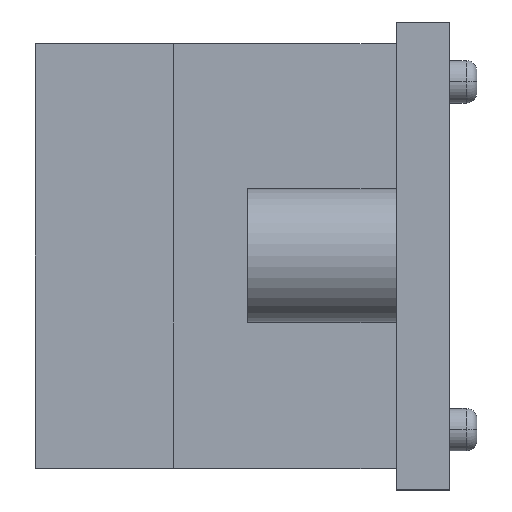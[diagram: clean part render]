
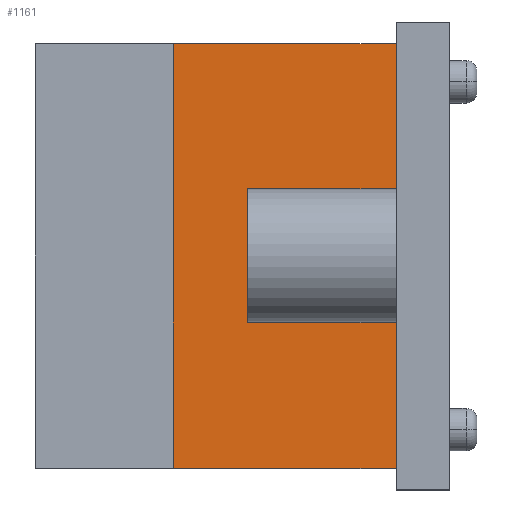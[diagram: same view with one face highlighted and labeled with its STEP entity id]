
A CAD part, top view. The second image highlights one B-rep face of the part: STEP entity #1161.
In plain terms, the highlighted planar face has unit normal (0, 0, 1).
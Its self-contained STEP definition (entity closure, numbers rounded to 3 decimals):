
#195 = LINE ( 'NONE', #742, #3392 ) ;
#292 = PLANE ( 'NONE',  #2908 ) ;
#330 = EDGE_CURVE ( 'NONE', #1687, #2617, #1117, .T. ) ;
#349 = CARTESIAN_POINT ( 'NONE',  ( -9.5, -11., 14. ) ) ;
#363 = DIRECTION ( 'NONE',  ( 0., 1., 0. ) ) ;
#364 = DIRECTION ( 'NONE',  ( 1., 0., 0. ) ) ;
#418 = DIRECTION ( 'NONE',  ( 0., 1., 0. ) ) ;
#679 = CARTESIAN_POINT ( 'NONE',  ( -9.5, 0.75, 14. ) ) ;
#680 = CARTESIAN_POINT ( 'NONE',  ( -2.5, 11., 14. ) ) ;
#742 = CARTESIAN_POINT ( 'NONE',  ( -2.5, -0.75, 14. ) ) ;
#872 = DIRECTION ( 'NONE',  ( 0., 1., 0. ) ) ;
#1003 = VERTEX_POINT ( 'NONE', #3073 ) ;
#1046 = DIRECTION ( 'NONE',  ( 1., 0., 0. ) ) ;
#1082 = VERTEX_POINT ( 'NONE', #4090 ) ;
#1117 = LINE ( 'NONE', #680, #2953 ) ;
#1130 = EDGE_CURVE ( 'NONE', #3141, #1003, #4011, .T. ) ;
#1136 = EDGE_CURVE ( 'NONE', #1625, #2617, #1475, .T. ) ;
#1161 = ADVANCED_FACE ( 'NONE', ( #2411 ), #292, .F. ) ;
#1296 = EDGE_CURVE ( 'NONE', #1082, #1003, #195, .T. ) ;
#1356 = CARTESIAN_POINT ( 'NONE',  ( -19.5, 10., 14. ) ) ;
#1375 = VECTOR ( 'NONE', #363, 1000. ) ;
#1475 = LINE ( 'NONE', #1356, #1577 ) ;
#1577 = VECTOR ( 'NONE', #3502, 1000. ) ;
#1625 = VERTEX_POINT ( 'NONE', #4034 ) ;
#1687 = VERTEX_POINT ( 'NONE', #3657 ) ;
#1841 = DIRECTION ( 'NONE',  ( 0., 1., 0. ) ) ;
#1856 = EDGE_CURVE ( 'NONE', #2505, #1687, #2554, .T. ) ;
#1908 = DIRECTION ( 'NONE',  ( 0., 0., -1. ) ) ;
#1994 = CARTESIAN_POINT ( 'NONE',  ( -19.5, -0.75, 14. ) ) ;
#2001 = CARTESIAN_POINT ( 'NONE',  ( -19.5, 0.75, 14. ) ) ;
#2024 = ORIENTED_EDGE ( 'NONE', *, *, #1136, .F. ) ;
#2046 = ORIENTED_EDGE ( 'NONE', *, *, #3273, .T. ) ;
#2225 = LINE ( 'NONE', #349, #1375 ) ;
#2233 = CARTESIAN_POINT ( 'NONE',  ( -9.5, -11., 14. ) ) ;
#2411 = FACE_OUTER_BOUND ( 'NONE', #2903, .T. ) ;
#2505 = VERTEX_POINT ( 'NONE', #679 ) ;
#2554 = LINE ( 'NONE', #2001, #3211 ) ;
#2617 = VERTEX_POINT ( 'NONE', #3163 ) ;
#2619 = EDGE_CURVE ( 'NONE', #1082, #2879, #3649, .T. ) ;
#2815 = VECTOR ( 'NONE', #2841, 1000. ) ;
#2841 = DIRECTION ( 'NONE',  ( -1., 0., 0. ) ) ;
#2879 = VERTEX_POINT ( 'NONE', #3616 ) ;
#2903 = EDGE_LOOP ( 'NONE', ( #2046, #3760, #3338, #2024, #3122, #3978, #3328, #3824 ) ) ;
#2908 = AXIS2_PLACEMENT_3D ( 'NONE', #2233, #1908, #3800 ) ;
#2953 = VECTOR ( 'NONE', #1841, 1000. ) ;
#3073 = CARTESIAN_POINT ( 'NONE',  ( -2.5, -0.75, 14. ) ) ;
#3108 = VECTOR ( 'NONE', #872, 1000. ) ;
#3122 = ORIENTED_EDGE ( 'NONE', *, *, #3765, .F. ) ;
#3129 = CARTESIAN_POINT ( 'NONE',  ( -9.5, -0.75, 14. ) ) ;
#3141 = VERTEX_POINT ( 'NONE', #3129 ) ;
#3163 = CARTESIAN_POINT ( 'NONE',  ( -2.5, 10., 14. ) ) ;
#3211 = VECTOR ( 'NONE', #1046, 1000. ) ;
#3213 = LINE ( 'NONE', #3418, #3108 ) ;
#3273 = EDGE_CURVE ( 'NONE', #3141, #2505, #2225, .T. ) ;
#3328 = ORIENTED_EDGE ( 'NONE', *, *, #1296, .T. ) ;
#3338 = ORIENTED_EDGE ( 'NONE', *, *, #330, .T. ) ;
#3392 = VECTOR ( 'NONE', #418, 1000. ) ;
#3418 = CARTESIAN_POINT ( 'NONE',  ( -13., -11., 14. ) ) ;
#3477 = CARTESIAN_POINT ( 'NONE',  ( -19.5, -10., 14. ) ) ;
#3502 = DIRECTION ( 'NONE',  ( 1., 0., 0. ) ) ;
#3616 = CARTESIAN_POINT ( 'NONE',  ( -13., -10., 14. ) ) ;
#3649 = LINE ( 'NONE', #3477, #2815 ) ;
#3657 = CARTESIAN_POINT ( 'NONE',  ( -2.5, 0.75, 14. ) ) ;
#3760 = ORIENTED_EDGE ( 'NONE', *, *, #1856, .T. ) ;
#3765 = EDGE_CURVE ( 'NONE', #2879, #1625, #3213, .T. ) ;
#3800 = DIRECTION ( 'NONE',  ( -1., 0., 0. ) ) ;
#3824 = ORIENTED_EDGE ( 'NONE', *, *, #1130, .F. ) ;
#3910 = VECTOR ( 'NONE', #364, 1000. ) ;
#3978 = ORIENTED_EDGE ( 'NONE', *, *, #2619, .F. ) ;
#4011 = LINE ( 'NONE', #1994, #3910 ) ;
#4034 = CARTESIAN_POINT ( 'NONE',  ( -13., 10., 14. ) ) ;
#4090 = CARTESIAN_POINT ( 'NONE',  ( -2.5, -10., 14. ) ) ;
